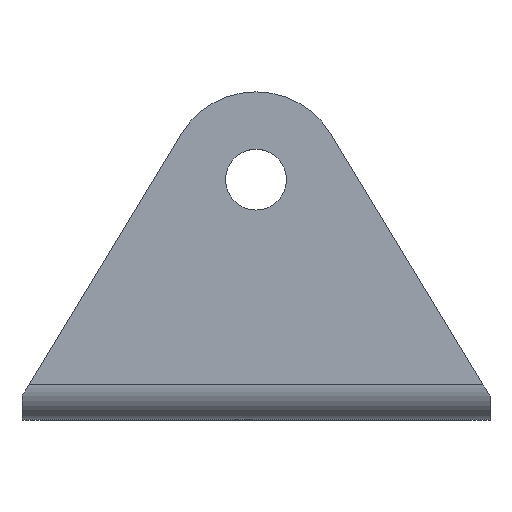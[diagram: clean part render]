
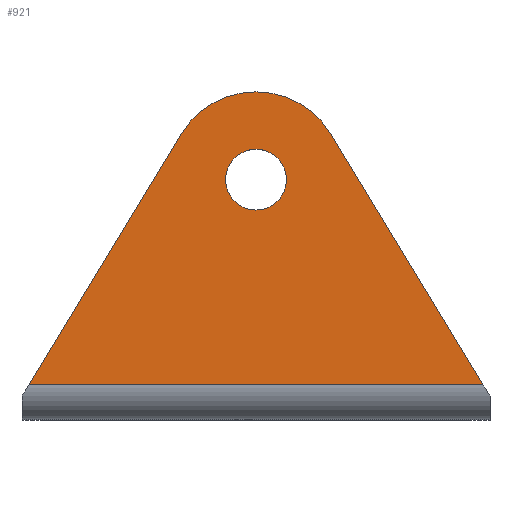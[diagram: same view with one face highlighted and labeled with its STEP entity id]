
A CAD part, top view. The second image highlights one B-rep face of the part: STEP entity #921.
In plain terms, the highlighted planar face has unit normal (0, 0, 1).
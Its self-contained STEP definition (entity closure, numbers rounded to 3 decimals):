
#3 = EDGE_LOOP ( 'NONE', ( #905, #439 ) ) ;
#62 = CARTESIAN_POINT ( 'NONE',  ( -6.412, 22.391, 2. ) ) ;
#116 = CARTESIAN_POINT ( 'NONE',  ( 0., 18.5, 2. ) ) ;
#146 = CARTESIAN_POINT ( 'NONE',  ( 0., 1., 2. ) ) ;
#204 = CARTESIAN_POINT ( 'NONE',  ( 0., 18.5, 2. ) ) ;
#217 = CARTESIAN_POINT ( 'NONE',  ( -6.412, 22.391, 2. ) ) ;
#242 = AXIS2_PLACEMENT_3D ( 'NONE', #204, #771, #290 ) ;
#249 = EDGE_CURVE ( 'NONE', #681, #839, #323, .T. ) ;
#279 = CARTESIAN_POINT ( 'NONE',  ( 19.393, 1., 2. ) ) ;
#290 = DIRECTION ( 'NONE',  ( 1., 0., 0. ) ) ;
#304 = CARTESIAN_POINT ( 'NONE',  ( 0., 18.5, 2. ) ) ;
#323 = LINE ( 'NONE', #62, #720 ) ;
#370 = LINE ( 'NONE', #605, #401 ) ;
#375 = DIRECTION ( 'NONE',  ( 0., 0., 1. ) ) ;
#401 = VECTOR ( 'NONE', #682, 1000. ) ;
#412 = AXIS2_PLACEMENT_3D ( 'NONE', #116, #375, #937 ) ;
#439 = ORIENTED_EDGE ( 'NONE', *, *, #916, .T. ) ;
#458 = PLANE ( 'NONE',  #412 ) ;
#491 = DIRECTION ( 'NONE',  ( 1., 0., 0. ) ) ;
#499 = LINE ( 'NONE', #146, #889 ) ;
#508 = CIRCLE ( 'NONE', #561, 2.6 ) ;
#543 = CIRCLE ( 'NONE', #242, 2.6 ) ;
#545 = EDGE_CURVE ( 'NONE', #1053, #681, #701, .T. ) ;
#561 = AXIS2_PLACEMENT_3D ( 'NONE', #304, #783, #703 ) ;
#566 = FACE_OUTER_BOUND ( 'NONE', #677, .T. ) ;
#579 = ORIENTED_EDGE ( 'NONE', *, *, #545, .T. ) ;
#590 = EDGE_CURVE ( 'NONE', #839, #809, #499, .T. ) ;
#597 = ORIENTED_EDGE ( 'NONE', *, *, #858, .T. ) ;
#605 = CARTESIAN_POINT ( 'NONE',  ( 6.412, 22.391, 2. ) ) ;
#616 = CARTESIAN_POINT ( 'NONE',  ( 2.6, 18.5, 2. ) ) ;
#674 = ORIENTED_EDGE ( 'NONE', *, *, #590, .T. ) ;
#677 = EDGE_LOOP ( 'NONE', ( #903, #674, #597, #579 ) ) ;
#681 = VERTEX_POINT ( 'NONE', #217 ) ;
#682 = DIRECTION ( 'NONE',  ( -0.519, 0.855, 0. ) ) ;
#694 = EDGE_CURVE ( 'NONE', #952, #850, #508, .T. ) ;
#701 = CIRCLE ( 'NONE', #956, 7.5 ) ;
#703 = DIRECTION ( 'NONE',  ( 1., 0., 0. ) ) ;
#717 = DIRECTION ( 'NONE',  ( -0.519, -0.855, 0. ) ) ;
#720 = VECTOR ( 'NONE', #717, 1000. ) ;
#722 = FACE_BOUND ( 'NONE', #3, .T. ) ;
#771 = DIRECTION ( 'NONE',  ( 0., 0., -1. ) ) ;
#783 = DIRECTION ( 'NONE',  ( 0., 0., -1. ) ) ;
#804 = DIRECTION ( 'NONE',  ( 1., 0., 0. ) ) ;
#809 = VERTEX_POINT ( 'NONE', #279 ) ;
#839 = VERTEX_POINT ( 'NONE', #841 ) ;
#841 = CARTESIAN_POINT ( 'NONE',  ( -19.393, 1., 2. ) ) ;
#850 = VERTEX_POINT ( 'NONE', #925 ) ;
#858 = EDGE_CURVE ( 'NONE', #809, #1053, #370, .T. ) ;
#881 = CARTESIAN_POINT ( 'NONE',  ( 0., 18.5, 2. ) ) ;
#888 = DIRECTION ( 'NONE',  ( 0., 0., 1. ) ) ;
#889 = VECTOR ( 'NONE', #804, 1000. ) ;
#903 = ORIENTED_EDGE ( 'NONE', *, *, #249, .T. ) ;
#905 = ORIENTED_EDGE ( 'NONE', *, *, #694, .T. ) ;
#916 = EDGE_CURVE ( 'NONE', #850, #952, #543, .T. ) ;
#921 = ADVANCED_FACE ( 'NONE', ( #722, #566 ), #458, .T. ) ;
#925 = CARTESIAN_POINT ( 'NONE',  ( -2.6, 18.5, 2. ) ) ;
#936 = CARTESIAN_POINT ( 'NONE',  ( 6.412, 22.391, 2. ) ) ;
#937 = DIRECTION ( 'NONE',  ( 1., 0., 0. ) ) ;
#952 = VERTEX_POINT ( 'NONE', #616 ) ;
#956 = AXIS2_PLACEMENT_3D ( 'NONE', #881, #888, #491 ) ;
#1053 = VERTEX_POINT ( 'NONE', #936 ) ;
